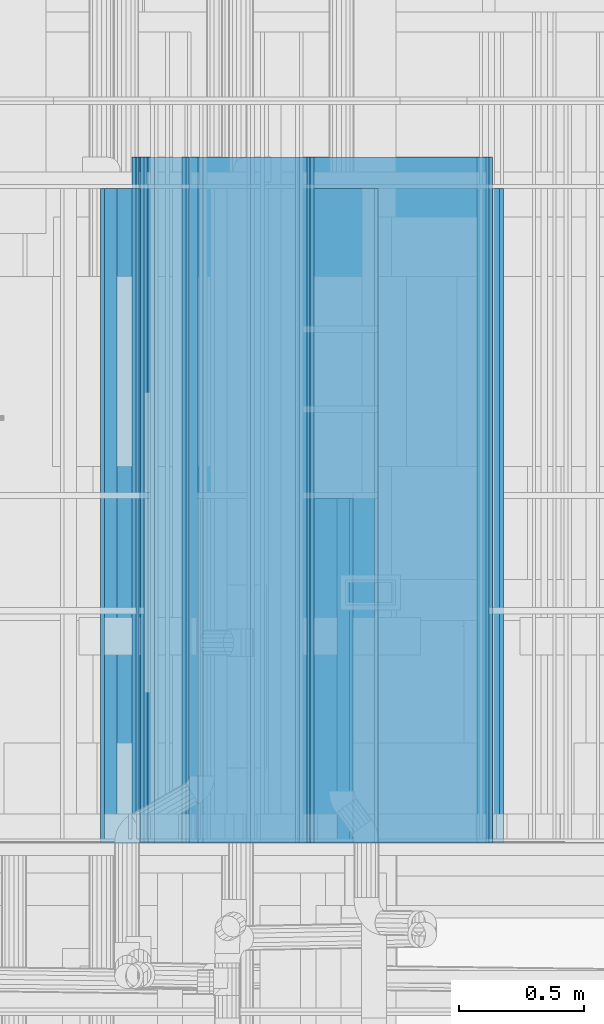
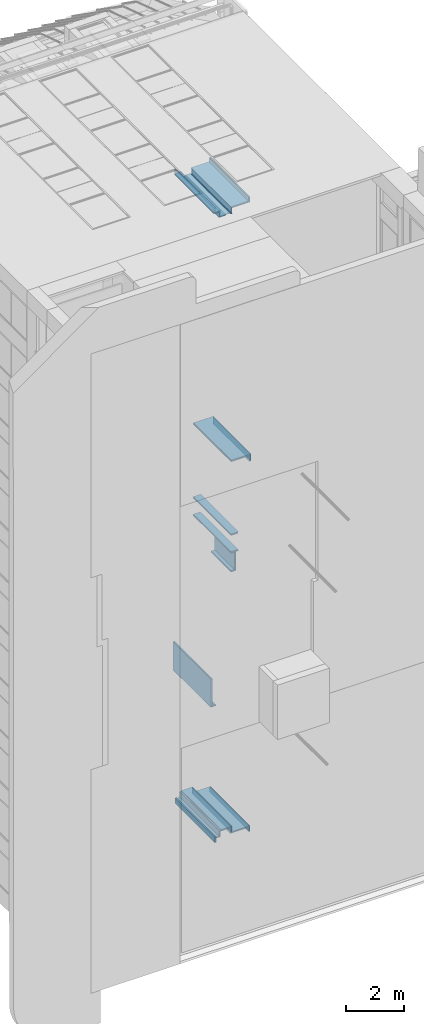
# One storey, part 48 of 583: 60 building element parts, 22 elements without a shape of their own.
"""IFC2X3 building model written with IfcOpenShell, lengths in metres."""

from ifc_helpers import new_model, entity, si_unit, converted_unit, derived_unit, money_unit, direction, frame, frame_2d, origin_with_axes, place, context, subcontext, project, spatial, polyline, rectangle, outline, extrude, material, type_object, element, aggregate, save


model = new_model("IFC2X3")

# Units and contexts
model_context = context("Model", 3, precision=1e-05, world=origin_with_axes(), true_north=direction((0.0, 1.0)))
body_context = subcontext(model_context, "Body", "Model", "MODEL_VIEW", scale=1.0)
ifc_project = project(units=[si_unit("LENGTHUNIT", "METRE"), si_unit("AREAUNIT", "SQUARE_METRE"), si_unit("VOLUMEUNIT", "CUBIC_METRE"), si_unit("ABSORBEDDOSEUNIT", "GRAY"), si_unit("AMOUNTOFSUBSTANCEUNIT", "MOLE"), si_unit("DOSEEQUIVALENTUNIT", "SIEVERT"), si_unit("ELECTRICCAPACITANCEUNIT", "FARAD"), si_unit("ELECTRICCHARGEUNIT", "COULOMB"), si_unit("ELECTRICCONDUCTANCEUNIT", "SIEMENS"), si_unit("ELECTRICCURRENTUNIT", "AMPERE"), si_unit("ELECTRICRESISTANCEUNIT", "OHM"), si_unit("ELECTRICVOLTAGEUNIT", "VOLT"), si_unit("ENERGYUNIT", "JOULE"), si_unit("FORCEUNIT", "NEWTON"), si_unit("FREQUENCYUNIT", "HERTZ"), si_unit("ILLUMINANCEUNIT", "LUX"), si_unit("INDUCTANCEUNIT", "HENRY"), si_unit("LUMINOUSFLUXUNIT", "LUMEN"), si_unit("LUMINOUSINTENSITYUNIT", "CANDELA"), si_unit("MAGNETICFLUXDENSITYUNIT", "TESLA"), si_unit("MAGNETICFLUXUNIT", "WEBER"), si_unit("MASSUNIT", "GRAM"), converted_unit("PLANEANGLEUNIT", "degree", entity("IfcReal", 0.0174532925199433), si_unit("PLANEANGLEUNIT", "RADIAN"), dimensions=[0, 0, 0, 0, 0, 0, 0]), si_unit("POWERUNIT", "WATT"), si_unit("PRESSUREUNIT", "PASCAL"), si_unit("RADIOACTIVITYUNIT", "BECQUEREL"), si_unit("SOLIDANGLEUNIT", "STERADIAN"), si_unit("THERMODYNAMICTEMPERATUREUNIT", "KELVIN"), si_unit("TIMEUNIT", "SECOND"), derived_unit("ACCELERATIONUNIT", [(si_unit("LENGTHUNIT", "METRE"), 1), (si_unit("TIMEUNIT", "SECOND"), -2)]), derived_unit("ANGULARVELOCITYUNIT", [(converted_unit("PLANEANGLEUNIT", "degree", entity("IfcReal", 0.0174532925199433), si_unit("PLANEANGLEUNIT", "RADIAN"), dimensions=[0, 0, 0, 0, 0, 0, 0]), 1), (si_unit("TIMEUNIT", "SECOND"), -1)]), derived_unit("CURVATUREUNIT", [(converted_unit("PLANEANGLEUNIT", "degree", entity("IfcReal", 0.0174532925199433), si_unit("PLANEANGLEUNIT", "RADIAN"), dimensions=[0, 0, 0, 0, 0, 0, 0]), 1), (si_unit("LENGTHUNIT", "METRE"), -1)]), derived_unit("DYNAMICVISCOSITYUNIT", [(si_unit("PRESSUREUNIT", "PASCAL"), 1), (si_unit("TIMEUNIT", "SECOND"), 1)]), derived_unit("HEATFLUXDENSITYUNIT", [(si_unit("POWERUNIT", "WATT"), 1), (si_unit("LENGTHUNIT", "METRE"), -2)]), derived_unit("HEATINGVALUEUNIT", [(si_unit("ENERGYUNIT", "JOULE"), 1), (si_unit("MASSUNIT", "GRAM"), -1)]), derived_unit("INTEGERCOUNTRATEUNIT", [(si_unit("TIMEUNIT", "SECOND"), -1)]), derived_unit("IONCONCENTRATIONUNIT", [(si_unit("MASSUNIT", "GRAM"), 1), (si_unit("VOLUMEUNIT", "CUBIC_METRE"), -1)]), derived_unit("ISOTHERMALMOISTURECAPACITYUNIT", [(si_unit("VOLUMEUNIT", "CUBIC_METRE"), 1), (si_unit("MASSUNIT", "GRAM"), -1)]), derived_unit("KINEMATICVISCOSITYUNIT", [(si_unit("AREAUNIT", "SQUARE_METRE"), 1), (si_unit("TIMEUNIT", "SECOND"), -1)]), derived_unit("LINEARFORCEUNIT", [(si_unit("FORCEUNIT", "NEWTON"), 1), (si_unit("LENGTHUNIT", "METRE"), -1)]), derived_unit("LINEARMOMENTUNIT", [(si_unit("FORCEUNIT", "NEWTON"), 1), (si_unit("LENGTHUNIT", "METRE"), -1)]), derived_unit("LINEARSTIFFNESSUNIT", [(si_unit("FORCEUNIT", "NEWTON"), 1), (si_unit("LENGTHUNIT", "METRE"), -1)]), derived_unit("LINEARVELOCITYUNIT", [(si_unit("LENGTHUNIT", "METRE"), 1), (si_unit("TIMEUNIT", "SECOND"), -1)]), derived_unit("LUMINOUSINTENSITYDISTRIBUTIONUNIT", [(si_unit("LUMINOUSINTENSITYUNIT", "CANDELA"), 1), (si_unit("LUMINOUSFLUXUNIT", "LUMEN"), -1)]), derived_unit("MASSDENSITYUNIT", [(si_unit("MASSUNIT", "GRAM"), 1), (si_unit("VOLUMEUNIT", "CUBIC_METRE"), -1)]), derived_unit("MASSFLOWRATEUNIT", [(si_unit("MASSUNIT", "GRAM"), 1), (si_unit("TIMEUNIT", "SECOND"), -1)]), derived_unit("MASSPERLENGTHUNIT", [(si_unit("MASSUNIT", "GRAM"), 1), (si_unit("LENGTHUNIT", "METRE"), -1)]), derived_unit("MODULUSOFELASTICITYUNIT", [(si_unit("FORCEUNIT", "NEWTON"), 1), (si_unit("AREAUNIT", "SQUARE_METRE"), -1)]), derived_unit("MODULUSOFLINEARSUBGRADEREACTIONUNIT", [(si_unit("FORCEUNIT", "NEWTON"), 1), (si_unit("LENGTHUNIT", "METRE"), -2)]), derived_unit("MODULUSOFROTATIONALSUBGRADEREACTIONUNIT", [(si_unit("FORCEUNIT", "NEWTON"), 1), (si_unit("LENGTHUNIT", "METRE"), 1)]), derived_unit("MODULUSOFSUBGRADEREACTIONUNIT", [(si_unit("FORCEUNIT", "NEWTON"), 1), (si_unit("VOLUMEUNIT", "CUBIC_METRE"), -1)]), derived_unit("MOISTUREDIFFUSIVITYUNIT", [(si_unit("VOLUMEUNIT", "CUBIC_METRE"), 1), (si_unit("TIMEUNIT", "SECOND"), -1)]), derived_unit("MOLECULARWEIGHTUNIT", [(si_unit("MASSUNIT", "GRAM"), 1), (si_unit("AMOUNTOFSUBSTANCEUNIT", "MOLE"), -1)]), derived_unit("PLANARFORCEUNIT", [(si_unit("FORCEUNIT", "NEWTON"), 1), (si_unit("LENGTHUNIT", "METRE"), -2)]), derived_unit("ROTATIONALFREQUENCYUNIT", [(si_unit("TIMEUNIT", "SECOND"), -1)]), derived_unit("ROTATIONALMASSUNIT", [(si_unit("MASSUNIT", "GRAM"), 1), (si_unit("LENGTHUNIT", "METRE"), 2)]), derived_unit("ROTATIONALSTIFFNESSUNIT", [(si_unit("FORCEUNIT", "NEWTON"), 1), (si_unit("LENGTHUNIT", "METRE"), 1), (converted_unit("PLANEANGLEUNIT", "degree", entity("IfcReal", 0.0174532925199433), si_unit("PLANEANGLEUNIT", "RADIAN"), dimensions=[0, 0, 0, 0, 0, 0, 0]), -1)]), derived_unit("SECTIONAREAINTEGRALUNIT", [(si_unit("LENGTHUNIT", "METRE"), 5)]), derived_unit("SECTIONMODULUSUNIT", [(si_unit("LENGTHUNIT", "METRE"), 3)]), derived_unit("SHEARMODULUSUNIT", [(si_unit("FORCEUNIT", "NEWTON"), 1), (si_unit("AREAUNIT", "SQUARE_METRE"), -1)]), derived_unit("SOUNDPOWERUNIT", [(si_unit("ENERGYUNIT", "JOULE"), 1), (si_unit("TIMEUNIT", "SECOND"), -1)]), derived_unit("SPECIFICHEATCAPACITYUNIT", [(si_unit("FORCEUNIT", "NEWTON"), 1), (si_unit("MASSUNIT", "GRAM"), -1), (si_unit("THERMODYNAMICTEMPERATUREUNIT", "KELVIN"), -1)]), derived_unit("TEMPERATUREGRADIENTUNIT", [(si_unit("THERMODYNAMICTEMPERATUREUNIT", "KELVIN"), 1), (si_unit("LENGTHUNIT", "METRE"), -1)]), derived_unit("THERMALADMITTANCEUNIT", [(si_unit("POWERUNIT", "WATT"), 1), (si_unit("AREAUNIT", "SQUARE_METRE"), -1), (si_unit("THERMODYNAMICTEMPERATUREUNIT", "KELVIN"), -1)]), derived_unit("THERMALCONDUCTANCEUNIT", [(si_unit("POWERUNIT", "WATT"), 1), (si_unit("LENGTHUNIT", "METRE"), -1), (si_unit("THERMODYNAMICTEMPERATUREUNIT", "KELVIN"), -1)]), derived_unit("THERMALEXPANSIONCOEFFICIENTUNIT", [(si_unit("THERMODYNAMICTEMPERATUREUNIT", "KELVIN"), -1)]), derived_unit("THERMALRESISTANCEUNIT", [(si_unit("AREAUNIT", "SQUARE_METRE"), 1), (si_unit("POWERUNIT", "WATT"), -1)]), derived_unit("THERMALTRANSMITTANCEUNIT", [(si_unit("POWERUNIT", "WATT"), 1), (si_unit("AREAUNIT", "SQUARE_METRE"), -1), (si_unit("THERMODYNAMICTEMPERATUREUNIT", "KELVIN"), -1)]), derived_unit("TORQUEUNIT", [(si_unit("FORCEUNIT", "NEWTON"), 1), (si_unit("LENGTHUNIT", "METRE"), 1)]), derived_unit("VAPORPERMEABILITYUNIT", [(si_unit("MASSUNIT", "GRAM"), 1), (si_unit("TIMEUNIT", "SECOND"), -1)]), derived_unit("VOLUMETRICFLOWRATEUNIT", [(si_unit("VOLUMEUNIT", "CUBIC_METRE"), 1), (si_unit("TIMEUNIT", "SECOND"), -1)]), derived_unit("WARPINGCONSTANTUNIT", [(si_unit("LENGTHUNIT", "METRE"), 6)]), derived_unit("WARPINGMOMENTUNIT", [(si_unit("FORCEUNIT", "NEWTON"), 1), (si_unit("LENGTHUNIT", "METRE"), 2)]), money_unit("GBP")], contexts=[model_context])

# Site, building, storey
site_placement = place(None, origin_with_axes())
site = spatial("IfcSite", under=ifc_project, at=site_placement, Name="Site", CompositionType="ELEMENT")
building_placement = place(site_placement, origin_with_axes())
building = spatial("IfcBuilding", under=site, at=building_placement, Name="Building01", CompositionType="ELEMENT")
storey_placement = place(building_placement, frame((0.0, 0.0, 20.78), z_axis=(0.0, 0.0, 1.0), x_axis=(1.0, 0.0, 0.0)))
storey = spatial("IfcBuildingStorey", under=building, at=storey_placement, Name="RL", CompositionType="ELEMENT", Elevation=20.78)

# Wall, building element parts
wall_type_1 = type_object("IfcWallType", Name="SHE_A-Walls_Type05c_PreWallShell_65mm", PredefinedType="NOTDEFINED")
wall_1_placement = place(storey_placement, frame((8.82, 5.15, -8.626129), z_axis=(0.0, 1.0, 0.0), x_axis=(1.0, 0.0, 0.0)))
wall_1 = element("IfcWall", 1, at=wall_1_placement, inside=storey, type_object=wall_type_1, Name="5C", ObjectType="SHE_A-Walls_Type05c_PreWallShell_65mm")
ifc_material_1 = material(Name="A_BSUK_OpeningsClearance")
placement_1 = place(wall_1_placement, origin_with_axes())
building_element_part_1 = element("IfcBuildingElementPart", 2, at=placement_1, material=ifc_material_1, Name="1", context=body_context, shape_type="SweptSolid", body=[
    extrude(rectangle(XDim=0.285, YDim=0.05, at=frame_2d((0.1425, 0.025), x_axis=(-1.0, 0.0))), origin_with_axes(), (0.0, 0.0, 1.0), 2.615),
])
ifc_material_2 = material(Name="A_BSUK_Walls_Timber")
building_element_part_2 = element("IfcBuildingElementPart", 3, at=placement_1, material=ifc_material_2, Name="2", context=body_context, shape_type="SweptSolid", body=[
    extrude(rectangle(XDim=0.3, YDim=0.015, at=frame_2d((0.15, 0.0575), x_axis=(-1.0, 0.0))), origin_with_axes(), (0.0, 0.0, 1.0), 2.615),
])
aggregate(wall_1, [building_element_part_1, building_element_part_2])

wall_2_placement = place(storey_placement, frame((8.82, 5.15, -7.951415), z_axis=(0.0, 1.0, 0.0), x_axis=(1.0, 0.0, 0.0)))
wall_2 = element("IfcWall", 4, at=wall_2_placement, inside=storey, type_object=wall_type_1, Name="5C", ObjectType="SHE_A-Walls_Type05c_PreWallShell_65mm")
placement_2 = place(wall_2_placement, origin_with_axes())
building_element_part_3 = element("IfcBuildingElementPart", 5, at=placement_2, material=ifc_material_1, Name="1", context=body_context, shape_type="SweptSolid", body=[
    extrude(rectangle(XDim=0.285, YDim=0.05, at=frame_2d((0.1425, -0.025), x_axis=(-1.0, 0.0))), origin_with_axes(), (0.0, 0.0, 1.0), 2.615),
])
building_element_part_4 = element("IfcBuildingElementPart", 6, at=placement_2, material=ifc_material_2, Name="2", context=body_context, shape_type="SweptSolid", body=[
    extrude(rectangle(XDim=0.3, YDim=0.015, at=frame_2d((0.15, -0.0575), x_axis=(-1.0, 0.0))), origin_with_axes(), (0.0, 0.0, 1.0), 2.615),
])
aggregate(wall_2, [building_element_part_3, building_element_part_4])

wall_3_placement = place(storey_placement, frame((9.555, 5.15, -4.836868), z_axis=(0.0, 1.0, 0.0), x_axis=(-1.0, 0.0, 0.0)))
wall_3 = element("IfcWall", 7, at=wall_3_placement, inside=storey, type_object=wall_type_1, Name="5C", ObjectType="SHE_A-Walls_Type05c_PreWallShell_65mm")
placement_3 = place(wall_3_placement, origin_with_axes())
building_element_part_5 = element("IfcBuildingElementPart", 8, at=placement_3, material=ifc_material_1, Name="1", context=body_context, shape_type="SweptSolid", body=[
    extrude(rectangle(XDim=0.735, YDim=0.05, at=frame_2d((0.3675, 0.025), x_axis=(-1.0, 0.0))), origin_with_axes(), (0.0, 0.0, 1.0), 2.615),
])
building_element_part_6 = element("IfcBuildingElementPart", 9, at=placement_3, material=ifc_material_2, Name="2", context=body_context, shape_type="SweptSolid", body=[
    extrude(rectangle(XDim=0.785, YDim=0.015, at=frame_2d((0.3275, 0.0575), x_axis=(-1.0, 0.0))), origin_with_axes(), (0.0, 0.0, 1.0), 2.615),
])
aggregate(wall_3, [building_element_part_5, building_element_part_6])

wall_4_placement = place(storey_placement, frame((9.555, 5.15, -5.071868), z_axis=(0.0, 1.0, 0.0), x_axis=(0.0, 0.0, 1.0)))
wall_4 = element("IfcWall", 10, at=wall_4_placement, inside=storey, type_object=wall_type_1, Name="5C", ObjectType="SHE_A-Walls_Type05c_PreWallShell_65mm")
placement_4 = place(wall_4_placement, origin_with_axes())
building_element_part_7 = element("IfcBuildingElementPart", 11, at=placement_4, material=ifc_material_1, Name="1", context=body_context, shape_type="SweptSolid", body=[
    extrude(rectangle(XDim=0.285, YDim=0.05, at=frame_2d((0.1425, 0.025), x_axis=(-1.0, 0.0))), origin_with_axes(), (0.0, 0.0, 1.0), 2.615),
])
building_element_part_8 = element("IfcBuildingElementPart", 12, at=placement_4, material=ifc_material_2, Name="2", context=body_context, shape_type="SweptSolid", body=[
    extrude(rectangle(XDim=0.285, YDim=0.015, at=frame_2d((0.1425, 0.0575), x_axis=(-1.0, 0.0))), origin_with_axes(), (0.0, 0.0, 1.0), 2.615),
])
aggregate(wall_4, [building_element_part_7, building_element_part_8])

wall_5_placement = place(storey_placement, frame((8.954996, 5.15, -8.676129), z_axis=(0.0, 1.0, 0.0), x_axis=(0.0, 0.0, -1.0)))
wall_5 = element("IfcWall", 13, at=wall_5_placement, inside=storey, type_object=wall_type_1, Name="5C", ObjectType="SHE_A-Walls_Type05c_PreWallShell_65mm")
placement_5 = place(wall_5_placement, origin_with_axes())
building_element_part_9 = element("IfcBuildingElementPart", 14, at=placement_5, material=ifc_material_1, Name="1", context=body_context, shape_type="SweptSolid", body=[
    extrude(rectangle(XDim=0.749998, YDim=0.05, at=frame_2d((0.374999, -0.025), x_axis=(-1.0, 0.0))), origin_with_axes(), (0.0, 0.0, 1.0), 1.375),
])
building_element_part_10 = element("IfcBuildingElementPart", 15, at=placement_5, material=ifc_material_2, Name="2", context=body_context, shape_type="SweptSolid", body=[
    extrude(rectangle(XDim=0.784998, YDim=0.015, at=frame_2d((0.407499, -0.0575), x_axis=(-1.0, 0.0))), origin_with_axes(), (0.0, 0.0, 1.0), 1.375),
])
aggregate(wall_5, [building_element_part_9, building_element_part_10])

wall_6_placement = place(storey_placement, frame((8.82, 5.15, -9.426127), z_axis=(0.0, 1.0, 0.0), x_axis=(1.0, 0.0, 0.0)))
wall_6 = element("IfcWall", 16, at=wall_6_placement, inside=storey, type_object=wall_type_1, Name="5C", ObjectType="SHE_A-Walls_Type05c_PreWallShell_65mm")
placement_6 = place(wall_6_placement, origin_with_axes())
building_element_part_11 = element("IfcBuildingElementPart", 17, at=placement_6, material=ifc_material_1, Name="1", context=body_context, shape_type="SweptSolid", body=[
    extrude(rectangle(XDim=0.184996, YDim=0.05, at=frame_2d((0.092498, 0.025), x_axis=(-1.0, 0.0))), origin_with_axes(), (0.0, 0.0, 1.0), 1.375),
])
building_element_part_12 = element("IfcBuildingElementPart", 18, at=placement_6, material=ifc_material_2, Name="2", context=body_context, shape_type="SweptSolid", body=[
    extrude(rectangle(XDim=0.199996, YDim=0.015, at=frame_2d((0.099998, 0.0575), x_axis=(-1.0, 0.0))), origin_with_axes(), (0.0, 0.0, 1.0), 1.375),
])
aggregate(wall_6, [building_element_part_11, building_element_part_12])

wall_7_placement = place(storey_placement, frame((8.21067, 5.15, -14.850331), z_axis=(0.0, 1.0, 0.0), x_axis=(1.0, 0.0, 0.0)))
wall_7 = element("IfcWall", 19, at=wall_7_placement, inside=storey, type_object=wall_type_1, Name="5C", ObjectType="SHE_A-Walls_Type05c_PreWallShell_65mm")
placement_7 = place(wall_7_placement, origin_with_axes())
building_element_part_13 = element("IfcBuildingElementPart", 20, at=placement_7, material=ifc_material_1, Name="1", context=body_context, shape_type="SweptSolid", body=[
    extrude(rectangle(XDim=0.185, YDim=0.05, at=frame_2d((-0.0925, 0.025), x_axis=(1.0, 0.0))), origin_with_axes(), (0.0, 0.0, 1.0), 2.615),
])
building_element_part_14 = element("IfcBuildingElementPart", 21, at=placement_7, material=ifc_material_2, Name="2", context=body_context, shape_type="SweptSolid", body=[
    extrude(rectangle(XDim=0.2, YDim=0.015, at=frame_2d((-0.1, 0.0575), x_axis=(1.0, 0.0))), origin_with_axes(), (0.0, 0.0, 1.0), 2.615),
])
aggregate(wall_7, [building_element_part_13, building_element_part_14])

wall_8_placement = place(storey_placement, frame((8.07567, 5.15, -14.850331), z_axis=(0.0, 1.0, 0.0), x_axis=(0.0, 0.0, 1.0)))
wall_8 = element("IfcWall", 22, at=wall_8_placement, inside=storey, type_object=wall_type_1, Name="5C", ObjectType="SHE_A-Walls_Type05c_PreWallShell_65mm")
placement_8 = place(wall_8_placement, origin_with_axes())
building_element_part_15 = element("IfcBuildingElementPart", 23, at=placement_8, material=ifc_material_1, Name="1", context=body_context, shape_type="SweptSolid", body=[
    extrude(rectangle(XDim=1.135, YDim=0.05, at=frame_2d((0.5675, -0.025), x_axis=(-1.0, 0.0))), origin_with_axes(), (0.0, 0.0, 1.0), 2.615),
])
building_element_part_16 = element("IfcBuildingElementPart", 24, at=placement_8, material=ifc_material_2, Name="2", context=body_context, shape_type="SweptSolid", body=[
    extrude(rectangle(XDim=1.185, YDim=0.015, at=frame_2d((0.5425, -0.0575), x_axis=(-1.0, 0.0))), origin_with_axes(), (0.0, 0.0, 1.0), 2.615),
])
aggregate(wall_8, [building_element_part_15, building_element_part_16])

wall_type_2 = type_object("IfcWallType", Name="SHE_A-Walls_Type06f_ExternalWallInsulation_48+15mm", PredefinedType="NOTDEFINED")
wall_9_placement = place(storey_placement, frame((8.182326, 5.15, 6.1), z_axis=(0.0, 1.0, 0.0), x_axis=(0.0, 0.0, -1.0)))
wall_9 = element("IfcWall", 25, at=wall_9_placement, inside=storey, type_object=wall_type_2, Name="6F", ObjectType="SHE_A-Walls_Type06f_ExternalWallInsulation_48+15mm")
ifc_material_3 = material(Name="A_BSUK_Insulation")
placement_9 = place(wall_9_placement, origin_with_axes())
building_element_part_17 = element("IfcBuildingElementPart", 26, at=placement_9, material=ifc_material_3, Name="1", context=body_context, shape_type="SweptSolid", body=[
    extrude(outline(polyline([(0.206, 0.018), (0.0, 0.018), (0.0, -0.018), (0.17, -0.018), (0.206, 0.018)])), origin_with_axes(), (0.0, 0.0, 1.0), 2.74),
])
ifc_material_4 = material(Name="A_BSUK_WallInternal_Finishes_Plasterboard")
building_element_part_18 = element("IfcBuildingElementPart", 27, at=placement_9, material=ifc_material_4, Name="3", context=body_context, shape_type="SweptSolid", body=[
    extrude(outline(polyline([(0.233, 0.045), (0.0, 0.045), (0.0, 0.03), (0.218, 0.03), (0.233, 0.045)])), origin_with_axes(), (0.0, 0.0, 1.0), 2.74),
])
building_element_part_19 = element("IfcBuildingElementPart", 28, at=placement_9, material=ifc_material_4, Name="4", context=body_context, shape_type="SweptSolid", body=[
    extrude(outline(polyline([(0.218, 0.03), (0.0, 0.03), (0.0, 0.018), (0.206, 0.018), (0.218, 0.03)])), origin_with_axes(), (0.0, 0.0, 1.0), 2.74),
])
aggregate(wall_9, [building_element_part_17, building_element_part_18, building_element_part_19])

wall_10_placement = place(storey_placement, frame((8.182326, 5.15, 5.912), z_axis=(0.0, 1.0, 0.0), x_axis=(1.0, 0.0, 0.0)))
wall_10 = element("IfcWall", 29, at=wall_10_placement, inside=storey, type_object=wall_type_2, Name="6F", ObjectType="SHE_A-Walls_Type06f_ExternalWallInsulation_48+15mm")
placement_10 = place(wall_10_placement, origin_with_axes())
building_element_part_20 = element("IfcBuildingElementPart", 30, at=placement_10, material=ifc_material_3, Name="1", context=body_context, shape_type="SweptSolid", body=[
    extrude(outline(polyline([(0.181674, 0.018), (-0.018, 0.018), (0.018, -0.018), (0.217674, -0.018), (0.181674, 0.018)])), origin_with_axes(), (0.0, 0.0, 1.0), 2.74),
])
building_element_part_21 = element("IfcBuildingElementPart", 31, at=placement_10, material=ifc_material_4, Name="3", context=body_context, shape_type="SweptSolid", body=[
    extrude(outline(polyline([(0.154674, 0.045), (-0.045, 0.045), (-0.03, 0.03), (0.169674, 0.03), (0.154674, 0.045)])), origin_with_axes(), (0.0, 0.0, 1.0), 2.74),
])
building_element_part_22 = element("IfcBuildingElementPart", 32, at=placement_10, material=ifc_material_4, Name="4", context=body_context, shape_type="SweptSolid", body=[
    extrude(outline(polyline([(0.169674, 0.03), (-0.03, 0.03), (-0.018, 0.018), (0.181674, 0.018), (0.169674, 0.03)])), origin_with_axes(), (0.0, 0.0, 1.0), 2.74),
])
aggregate(wall_10, [building_element_part_20, building_element_part_21, building_element_part_22])

wall_11_placement = place(storey_placement, frame((8.382, 5.15, 5.912), z_axis=(0.0, 1.0, 0.0), x_axis=(0.0, 0.0, -1.0)))
wall_11 = element("IfcWall", 33, at=wall_11_placement, inside=storey, type_object=wall_type_2, Name="6F", ObjectType="SHE_A-Walls_Type06f_ExternalWallInsulation_48+15mm")
placement_11 = place(wall_11_placement, origin_with_axes())
building_element_part_23 = element("IfcBuildingElementPart", 34, at=placement_11, material=ifc_material_3, Name="1", context=body_context, shape_type="SweptSolid", body=[
    extrude(outline(polyline([(0.248, 0.018), (0.018, 0.018), (-0.018, -0.018), (0.212, -0.018), (0.248, 0.018)])), origin_with_axes(), (0.0, 0.0, 1.0), 2.74),
])
building_element_part_24 = element("IfcBuildingElementPart", 35, at=placement_11, material=ifc_material_4, Name="3", context=body_context, shape_type="SweptSolid", body=[
    extrude(outline(polyline([(0.275, 0.045), (0.045, 0.045), (0.03, 0.03), (0.26, 0.03), (0.275, 0.045)])), origin_with_axes(), (0.0, 0.0, 1.0), 2.74),
])
building_element_part_25 = element("IfcBuildingElementPart", 36, at=placement_11, material=ifc_material_4, Name="4", context=body_context, shape_type="SweptSolid", body=[
    extrude(outline(polyline([(0.26, 0.03), (0.03, 0.03), (0.018, 0.018), (0.248, 0.018), (0.26, 0.03)])), origin_with_axes(), (0.0, 0.0, 1.0), 2.74),
])
aggregate(wall_11, [building_element_part_23, building_element_part_24, building_element_part_25])

wall_12_placement = place(storey_placement, frame((8.818, 5.15, 5.682), z_axis=(0.0, 1.0, 0.0), x_axis=(0.0, 0.0, 1.0)))
wall_12 = element("IfcWall", 37, at=wall_12_placement, inside=storey, type_object=wall_type_2, Name="6F", ObjectType="SHE_A-Walls_Type06f_ExternalWallInsulation_48+15mm")
placement_12 = place(wall_12_placement, origin_with_axes())
building_element_part_26 = element("IfcBuildingElementPart", 38, at=placement_12, material=ifc_material_3, Name="1", context=body_context, shape_type="SweptSolid", body=[
    extrude(outline(polyline([(0.212, 0.018), (-0.018, 0.018), (0.018, -0.018), (0.248, -0.018), (0.212, 0.018)])), origin_with_axes(), (0.0, 0.0, 1.0), 2.74),
])
building_element_part_27 = element("IfcBuildingElementPart", 39, at=placement_12, material=ifc_material_4, Name="3", context=body_context, shape_type="SweptSolid", body=[
    extrude(outline(polyline([(0.185, 0.045), (-0.045, 0.045), (-0.03, 0.03), (0.2, 0.03), (0.185, 0.045)])), origin_with_axes(), (0.0, 0.0, 1.0), 2.74),
])
building_element_part_28 = element("IfcBuildingElementPart", 40, at=placement_12, material=ifc_material_4, Name="4", context=body_context, shape_type="SweptSolid", body=[
    extrude(outline(polyline([(0.2, 0.03), (-0.03, 0.03), (-0.018, 0.018), (0.212, 0.018), (0.2, 0.03)])), origin_with_axes(), (0.0, 0.0, 1.0), 2.74),
])
aggregate(wall_12, [building_element_part_26, building_element_part_27, building_element_part_28])

wall_13_placement = place(storey_placement, frame((8.818, 5.15, 5.912), z_axis=(0.0, 1.0, 0.0), x_axis=(1.0, 0.0, 0.0)))
wall_13 = element("IfcWall", 41, at=wall_13_placement, inside=storey, type_object=wall_type_2, Name="6F", ObjectType="SHE_A-Walls_Type06f_ExternalWallInsulation_48+15mm")
placement_13 = place(wall_13_placement, origin_with_axes())
building_element_part_29 = element("IfcBuildingElementPart", 42, at=placement_13, material=ifc_material_3, Name="1", context=body_context, shape_type="SweptSolid", body=[
    extrude(outline(polyline([(0.73218, 0.018), (0.018, 0.018), (-0.018, -0.018), (0.69618, -0.018), (0.73218, 0.018)])), origin_with_axes(), (0.0, 0.0, 1.0), 2.74),
])
building_element_part_30 = element("IfcBuildingElementPart", 43, at=placement_13, material=ifc_material_4, Name="3", context=body_context, shape_type="SweptSolid", body=[
    extrude(outline(polyline([(0.75918, 0.045), (0.045, 0.045), (0.03, 0.03), (0.74418, 0.03), (0.75918, 0.045)])), origin_with_axes(), (0.0, 0.0, 1.0), 2.74),
])
building_element_part_31 = element("IfcBuildingElementPart", 44, at=placement_13, material=ifc_material_4, Name="4", context=body_context, shape_type="SweptSolid", body=[
    extrude(outline(polyline([(0.74418, 0.03), (0.03, 0.03), (0.018, 0.018), (0.73218, 0.018), (0.74418, 0.03)])), origin_with_axes(), (0.0, 0.0, 1.0), 2.74),
])
aggregate(wall_13, [building_element_part_29, building_element_part_30, building_element_part_31])

wall_14_placement = place(storey_placement, frame((9.53218, 5.15, 5.912), z_axis=(0.0, 1.0, 0.0), x_axis=(0.0, 0.0, 1.0)))
wall_14 = element("IfcWall", 45, at=wall_14_placement, inside=storey, type_object=wall_type_2, Name="6F", ObjectType="SHE_A-Walls_Type06f_ExternalWallInsulation_48+15mm")
placement_14 = place(wall_14_placement, origin_with_axes())
building_element_part_32 = element("IfcBuildingElementPart", 46, at=placement_14, material=ifc_material_3, Name="1", context=body_context, shape_type="SweptSolid", body=[
    extrude(outline(polyline([(-0.018, 0.018), (0.018, -0.018), (0.188, -0.018), (0.188, 0.018), (-0.018, 0.018)])), origin_with_axes(), (0.0, 0.0, 1.0), 2.74),
])
building_element_part_33 = element("IfcBuildingElementPart", 47, at=placement_14, material=ifc_material_4, Name="3", context=body_context, shape_type="SweptSolid", body=[
    extrude(outline(polyline([(-0.045, 0.045), (-0.03, 0.03), (0.188, 0.03), (0.188, 0.045), (-0.045, 0.045)])), origin_with_axes(), (0.0, 0.0, 1.0), 2.74),
])
building_element_part_34 = element("IfcBuildingElementPart", 48, at=placement_14, material=ifc_material_4, Name="4", context=body_context, shape_type="SweptSolid", body=[
    extrude(outline(polyline([(-0.03, 0.03), (-0.018, 0.018), (0.188, 0.018), (0.188, 0.03), (-0.03, 0.03)])), origin_with_axes(), (0.0, 0.0, 1.0), 2.74),
])
aggregate(wall_14, [building_element_part_32, building_element_part_33, building_element_part_34])

wall_15_placement = place(storey_placement, frame((8.382, 5.15, 5.682), z_axis=(0.0, 1.0, 0.0), x_axis=(1.0, 0.0, 0.0)))
wall_15 = element("IfcWall", 49, at=wall_15_placement, inside=storey, type_object=wall_type_2, Name="6F", ObjectType="SHE_A-Walls_Type06f_ExternalWallInsulation_48+15mm")
placement_15 = place(wall_15_placement, origin_with_axes())
building_element_part_35 = element("IfcBuildingElementPart", 50, at=placement_15, material=ifc_material_3, Name="1", context=body_context, shape_type="SweptSolid", body=[
    extrude(outline(polyline([(0.454, 0.018), (-0.018, 0.018), (0.018, -0.018), (0.418, -0.018), (0.454, 0.018)])), origin_with_axes(), (0.0, 0.0, 1.0), 2.74),
])
building_element_part_36 = element("IfcBuildingElementPart", 51, at=placement_15, material=ifc_material_4, Name="3", context=body_context, shape_type="SweptSolid", body=[
    extrude(outline(polyline([(0.228, 0.045), (-0.045, 0.045), (-0.03, 0.03), (0.228, 0.03), (0.228, 0.045)])), origin_with_axes(), (0.0, 0.0, 1.0), 2.74),
])
building_element_part_37 = element("IfcBuildingElementPart", 52, at=placement_15, material=ifc_material_4, Name="5", context=body_context, shape_type="SweptSolid", body=[
    extrude(outline(polyline([(0.481, 0.045), (0.423, 0.045), (0.423, 0.03), (0.466, 0.03), (0.481, 0.045)])), origin_with_axes(), (0.0, 0.0, 1.0), 2.74),
])
building_element_part_38 = element("IfcBuildingElementPart", 53, at=placement_15, material=ifc_material_4, Name="6", context=body_context, shape_type="SweptSolid", body=[
    extrude(outline(polyline([(0.243, 0.03), (-0.03, 0.03), (-0.018, 0.018), (0.243, 0.018), (0.243, 0.03)])), origin_with_axes(), (0.0, 0.0, 1.0), 2.74),
])
building_element_part_39 = element("IfcBuildingElementPart", 54, at=placement_15, material=ifc_material_4, Name="7", context=body_context, shape_type="SweptSolid", body=[
    extrude(outline(polyline([(0.466, 0.03), (0.408, 0.03), (0.408, 0.018), (0.454, 0.018), (0.466, 0.03)])), origin_with_axes(), (0.0, 0.0, 1.0), 2.74),
])
aggregate(wall_15, [building_element_part_35, building_element_part_36, building_element_part_37, building_element_part_38, building_element_part_39])

wall_16_placement = place(storey_placement, frame((9.53218, 5.15, -20.68), z_axis=(0.0, 1.0, 0.0), x_axis=(0.0, 0.0, 1.0)))
wall_16 = element("IfcWall", 55, at=wall_16_placement, inside=storey, type_object=wall_type_2, Name="6F", ObjectType="SHE_A-Walls_Type06f_ExternalWallInsulation_48+15mm")
placement_16 = place(wall_16_placement, origin_with_axes())
building_element_part_40 = element("IfcBuildingElementPart", 56, at=placement_16, material=ifc_material_3, Name="1", context=body_context, shape_type="SweptSolid", body=[
    extrude(outline(polyline([(0.206, 0.018), (0.0, 0.018), (0.0, -0.018), (0.17, -0.018), (0.206, 0.018)])), origin_with_axes(), (0.0, 0.0, 1.0), 2.74),
])
building_element_part_41 = element("IfcBuildingElementPart", 57, at=placement_16, material=ifc_material_4, Name="3", context=body_context, shape_type="SweptSolid", body=[
    extrude(outline(polyline([(0.233, 0.045), (0.0, 0.045), (0.0, 0.03), (0.218, 0.03), (0.233, 0.045)])), origin_with_axes(), (0.0, 0.0, 1.0), 2.74),
])
building_element_part_42 = element("IfcBuildingElementPart", 58, at=placement_16, material=ifc_material_4, Name="4", context=body_context, shape_type="SweptSolid", body=[
    extrude(outline(polyline([(0.218, 0.03), (0.0, 0.03), (0.0, 0.018), (0.206, 0.018), (0.218, 0.03)])), origin_with_axes(), (0.0, 0.0, 1.0), 2.74),
])
aggregate(wall_16, [building_element_part_40, building_element_part_41, building_element_part_42])

wall_17_placement = place(storey_placement, frame((9.53218, 5.15, -20.492), z_axis=(0.0, 1.0, 0.0), x_axis=(-1.0, 0.0, 0.0)))
wall_17 = element("IfcWall", 59, at=wall_17_placement, inside=storey, type_object=wall_type_2, Name="6F", ObjectType="SHE_A-Walls_Type06f_ExternalWallInsulation_48+15mm")
placement_17 = place(wall_17_placement, origin_with_axes())
building_element_part_43 = element("IfcBuildingElementPart", 60, at=placement_17, material=ifc_material_3, Name="1", context=body_context, shape_type="SweptSolid", body=[
    extrude(outline(polyline([(0.69618, 0.018), (-0.018, 0.018), (0.018, -0.018), (0.73218, -0.018), (0.69618, 0.018)])), origin_with_axes(), (0.0, 0.0, 1.0), 2.74),
])
building_element_part_44 = element("IfcBuildingElementPart", 61, at=placement_17, material=ifc_material_4, Name="3", context=body_context, shape_type="SweptSolid", body=[
    extrude(outline(polyline([(0.66918, 0.045), (-0.045, 0.045), (-0.03, 0.03), (0.68418, 0.03), (0.66918, 0.045)])), origin_with_axes(), (0.0, 0.0, 1.0), 2.74),
])
building_element_part_45 = element("IfcBuildingElementPart", 62, at=placement_17, material=ifc_material_4, Name="4", context=body_context, shape_type="SweptSolid", body=[
    extrude(outline(polyline([(0.68418, 0.03), (-0.03, 0.03), (-0.018, 0.018), (0.69618, 0.018), (0.68418, 0.03)])), origin_with_axes(), (0.0, 0.0, 1.0), 2.74),
])
aggregate(wall_17, [building_element_part_43, building_element_part_44, building_element_part_45])

wall_18_placement = place(storey_placement, frame((8.818, 5.15, -20.492), z_axis=(0.0, 1.0, 0.0), x_axis=(0.0, 0.0, 1.0)))
wall_18 = element("IfcWall", 63, at=wall_18_placement, inside=storey, type_object=wall_type_2, Name="6F", ObjectType="SHE_A-Walls_Type06f_ExternalWallInsulation_48+15mm")
placement_18 = place(wall_18_placement, origin_with_axes())
building_element_part_46 = element("IfcBuildingElementPart", 64, at=placement_18, material=ifc_material_3, Name="1", context=body_context, shape_type="SweptSolid", body=[
    extrude(outline(polyline([(0.248, 0.018), (0.018, 0.018), (-0.018, -0.018), (0.212, -0.018), (0.248, 0.018)])), origin_with_axes(), (0.0, 0.0, 1.0), 2.74),
])
building_element_part_47 = element("IfcBuildingElementPart", 65, at=placement_18, material=ifc_material_4, Name="3", context=body_context, shape_type="SweptSolid", body=[
    extrude(outline(polyline([(0.275, 0.045), (0.045, 0.045), (0.03, 0.03), (0.26, 0.03), (0.275, 0.045)])), origin_with_axes(), (0.0, 0.0, 1.0), 2.74),
])
building_element_part_48 = element("IfcBuildingElementPart", 66, at=placement_18, material=ifc_material_4, Name="4", context=body_context, shape_type="SweptSolid", body=[
    extrude(outline(polyline([(0.26, 0.03), (0.03, 0.03), (0.018, 0.018), (0.248, 0.018), (0.26, 0.03)])), origin_with_axes(), (0.0, 0.0, 1.0), 2.74),
])
aggregate(wall_18, [building_element_part_46, building_element_part_47, building_element_part_48])

wall_19_placement = place(storey_placement, frame((8.818, 5.15, -20.262), z_axis=(0.0, 1.0, 0.0), x_axis=(-1.0, 0.0, 0.0)))
wall_19 = element("IfcWall", 67, at=wall_19_placement, inside=storey, type_object=wall_type_2, Name="6F", ObjectType="SHE_A-Walls_Type06f_ExternalWallInsulation_48+15mm")
placement_19 = place(wall_19_placement, origin_with_axes())
building_element_part_49 = element("IfcBuildingElementPart", 68, at=placement_19, material=ifc_material_3, Name="1", context=body_context, shape_type="SweptSolid", body=[
    extrude(outline(polyline([(0.454, 0.018), (-0.018, 0.018), (0.018, -0.018), (0.418, -0.018), (0.454, 0.018)])), origin_with_axes(), (0.0, 0.0, 1.0), 2.74),
])
building_element_part_50 = element("IfcBuildingElementPart", 69, at=placement_19, material=ifc_material_4, Name="3", context=body_context, shape_type="SweptSolid", body=[
    extrude(outline(polyline([(0.39733, 0.045), (-0.045, 0.045), (-0.03, 0.03), (0.39733, 0.03), (0.39733, 0.045)])), origin_with_axes(), (0.0, 0.0, 1.0), 2.74),
])
building_element_part_51 = element("IfcBuildingElementPart", 70, at=placement_19, material=ifc_material_4, Name="4", context=body_context, shape_type="SweptSolid", body=[
    extrude(outline(polyline([(0.39733, 0.03), (-0.03, 0.03), (-0.018, 0.018), (0.39733, 0.018), (0.39733, 0.03)])), origin_with_axes(), (0.0, 0.0, 1.0), 2.74),
])
aggregate(wall_19, [building_element_part_49, building_element_part_50, building_element_part_51])

wall_20_placement = place(storey_placement, frame((8.382, 5.15, -20.262), z_axis=(0.0, 1.0, 0.0), x_axis=(0.0, 0.0, -1.0)))
wall_20 = element("IfcWall", 71, at=wall_20_placement, inside=storey, type_object=wall_type_2, Name="6F", ObjectType="SHE_A-Walls_Type06f_ExternalWallInsulation_48+15mm")
placement_20 = place(wall_20_placement, origin_with_axes())
building_element_part_52 = element("IfcBuildingElementPart", 72, at=placement_20, material=ifc_material_3, Name="1", context=body_context, shape_type="SweptSolid", body=[
    extrude(outline(polyline([(0.212, 0.018), (-0.018, 0.018), (0.018, -0.018), (0.248, -0.018), (0.212, 0.018)])), origin_with_axes(), (0.0, 0.0, 1.0), 2.74),
])
building_element_part_53 = element("IfcBuildingElementPart", 73, at=placement_20, material=ifc_material_4, Name="3", context=body_context, shape_type="SweptSolid", body=[
    extrude(outline(polyline([(0.185, 0.045), (-0.045, 0.045), (-0.03, 0.03), (0.2, 0.03), (0.185, 0.045)])), origin_with_axes(), (0.0, 0.0, 1.0), 2.74),
])
building_element_part_54 = element("IfcBuildingElementPart", 74, at=placement_20, material=ifc_material_4, Name="4", context=body_context, shape_type="SweptSolid", body=[
    extrude(outline(polyline([(0.2, 0.03), (-0.03, 0.03), (-0.018, 0.018), (0.212, 0.018), (0.2, 0.03)])), origin_with_axes(), (0.0, 0.0, 1.0), 2.74),
])
aggregate(wall_20, [building_element_part_52, building_element_part_53, building_element_part_54])

wall_21_placement = place(storey_placement, frame((8.382, 5.15, -20.492), z_axis=(0.0, 1.0, 0.0), x_axis=(-1.0, 0.0, 0.0)))
wall_21 = element("IfcWall", 75, at=wall_21_placement, inside=storey, type_object=wall_type_2, Name="6F", ObjectType="SHE_A-Walls_Type06f_ExternalWallInsulation_48+15mm")
placement_21 = place(wall_21_placement, origin_with_axes())
building_element_part_55 = element("IfcBuildingElementPart", 76, at=placement_21, material=ifc_material_3, Name="1", context=body_context, shape_type="SweptSolid", body=[
    extrude(outline(polyline([(0.185, 0.018), (0.018, 0.018), (-0.018, -0.018), (0.149, -0.018), (0.185, 0.018)])), origin_with_axes(), (0.0, 0.0, 1.0), 2.74),
])
building_element_part_56 = element("IfcBuildingElementPart", 77, at=placement_21, material=ifc_material_4, Name="3", context=body_context, shape_type="SweptSolid", body=[
    extrude(outline(polyline([(0.212, 0.045), (0.15633, 0.045), (0.15633, 0.03), (0.197, 0.03), (0.212, 0.045)])), origin_with_axes(), (0.0, 0.0, 1.0), 2.74),
])
building_element_part_57 = element("IfcBuildingElementPart", 78, at=placement_21, material=ifc_material_4, Name="4", context=body_context, shape_type="SweptSolid", body=[
    extrude(outline(polyline([(0.197, 0.03), (0.15633, 0.03), (0.15633, 0.018), (0.185, 0.018), (0.197, 0.03)])), origin_with_axes(), (0.0, 0.0, 1.0), 2.74),
])
aggregate(wall_21, [building_element_part_55, building_element_part_56, building_element_part_57])

wall_22_placement = place(storey_placement, frame((8.215, 5.15, -20.492), z_axis=(0.0, 1.0, 0.0), x_axis=(0.0, 0.0, -1.0)))
wall_22 = element("IfcWall", 79, at=wall_22_placement, inside=storey, type_object=wall_type_2, Name="6F", ObjectType="SHE_A-Walls_Type06f_ExternalWallInsulation_48+15mm")
placement_22 = place(wall_22_placement, origin_with_axes())
building_element_part_58 = element("IfcBuildingElementPart", 80, at=placement_22, material=ifc_material_3, Name="1", context=body_context, shape_type="SweptSolid", body=[
    extrude(outline(polyline([(-0.018, 0.018), (0.018, -0.018), (0.188, -0.018), (0.188, 0.018), (-0.018, 0.018)])), origin_with_axes(), (0.0, 0.0, 1.0), 2.74),
])
building_element_part_59 = element("IfcBuildingElementPart", 81, at=placement_22, material=ifc_material_4, Name="3", context=body_context, shape_type="SweptSolid", body=[
    extrude(outline(polyline([(-0.045, 0.045), (-0.03, 0.03), (0.188, 0.03), (0.188, 0.045), (-0.045, 0.045)])), origin_with_axes(), (0.0, 0.0, 1.0), 2.74),
])
building_element_part_60 = element("IfcBuildingElementPart", 82, at=placement_22, material=ifc_material_4, Name="4", context=body_context, shape_type="SweptSolid", body=[
    extrude(outline(polyline([(-0.03, 0.03), (-0.018, 0.018), (0.188, 0.018), (0.188, 0.03), (-0.03, 0.03)])), origin_with_axes(), (0.0, 0.0, 1.0), 2.74),
])
aggregate(wall_22, [building_element_part_58, building_element_part_59, building_element_part_60])

save(model, "model.ifc")
